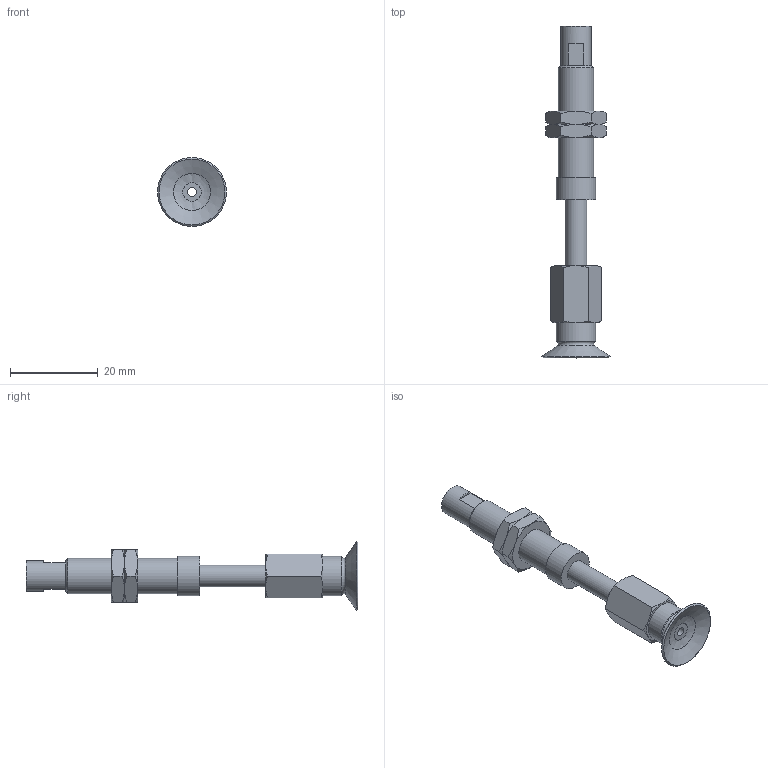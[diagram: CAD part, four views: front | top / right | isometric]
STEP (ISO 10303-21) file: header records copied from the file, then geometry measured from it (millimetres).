
FILE_DESCRIPTION(('STEP AP203'),'1');
FILE_NAME('.stp','2025-08-27T05:55:05',(' '),(' '),'Spatial InterOp 3D',' ',' ');
FILE_SCHEMA(('CONFIG_CONTROL_DESIGN'));
Length unit declared in the file: millimetre
Products named in the file (6): BNABPFTS-15A-15-※; ADAPTER; NAPATS-10A-15--M; Nut-15A-15-s; NAPFTS-15A-15-FBODY; BPFG-15A-※
Assembly tree (6 placements, depth 2):
  BNABPFTS-15A-15-※
    ADAPTER
    NAPATS-10A-15--M
    Nut-15A-15-s  x2
    NAPFTS-15A-15-FBODY
    BPFG-15A-※
Bounding box: 15.7 x 75.5 x 15.7 mm (x, y, z)
Volume: 4048.8 mm3; surface area: 4857.1 mm2
Topology: 6 solids, 6 shells, 113 faces, 234 edges, 140 vertices
Faces by surface type: cone 46, plane 41, cylinder 16, torus 9, bspline 1
Full cylindrical faces by diameter (mm): 2 x3, 4 x2, 4.134 x1, 5 x2, 6 x2, 7 x1, 7.188 x2, 8 x1, 9 x2
Entity records: 2667 total; most frequent: CARTESIAN_POINT 662, DIRECTION 364, ORIENTED_EDGE 290, AXIS2_PLACEMENT_3D 171, EDGE_CURVE 145, EDGE_LOOP 140, FACE_OUTER_BOUND 115, VERTEX_POINT 105
